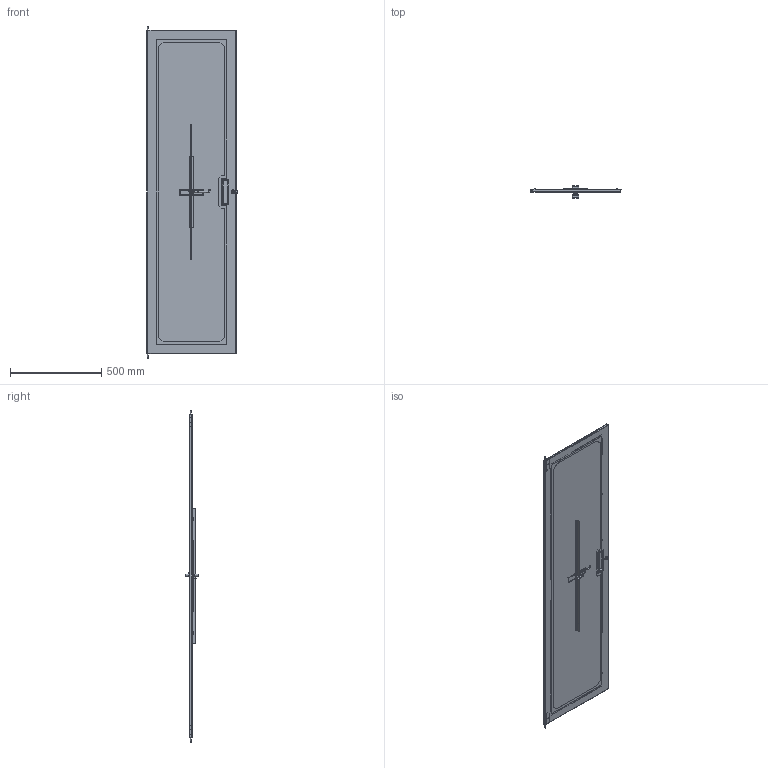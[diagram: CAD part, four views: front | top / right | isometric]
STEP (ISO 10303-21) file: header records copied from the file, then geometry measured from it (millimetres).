
FILE_DESCRIPTION( ( 'Unknown' ), '1' );
FILE_NAME( 'Q:/C2/DOORS/WEB DRAWINGS/STEP/C2DF1970P.stp', 'Unknown', ( 'Unknown' ), ( 'Unknown' ), 'PSStep 13.0', 'Unknown', ' ' );
FILE_SCHEMA( ( 'AUTOMOTIVE_DESIGN { 1 0 10303 214 1 1 1 1 }' ) );
Length unit declared in the file: millimetre
Products named in the file (24): COM54411; Assem1; COM54617; HNG14581; std26020; std26020-oa0; std26020-oa1; std26020-oa2; std26020-oa3; std26020-oa4; std26020-oa5; std26020-oa6; std26020-oa7; std26020-oa8; std26020-oa9; std26020-oa10; std26020-oa11; HAN13044; LOC13312; PIN17620; COM54241; GLP11103; COM54240
Bounding box: 496.67 x 69.85 x 1819.55 mm (x, y, z)
Volume: 10076333.7 mm3; surface area: 5222688.3 mm2
Topology: 76 solids, 76 shells, 1082 faces, 2435 edges, 1572 vertices
Faces by surface type: plane 695, cylinder 304, cone 61, bspline 16, torus 6
Full cylindrical faces by diameter (mm): 4.775 x50, 5.182 x3, 6.35 x59, 8.382 x2, 13.868 x2, 13.97 x2, 21.996 x2
Entity records: 11985 total; most frequent: CARTESIAN_POINT 1894, DIRECTION 1609, ORIENTED_EDGE 1398, EDGE_CURVE 699, AXIS2_PLACEMENT_3D 569, VERTEX_POINT 482, LINE 471, VECTOR 471
